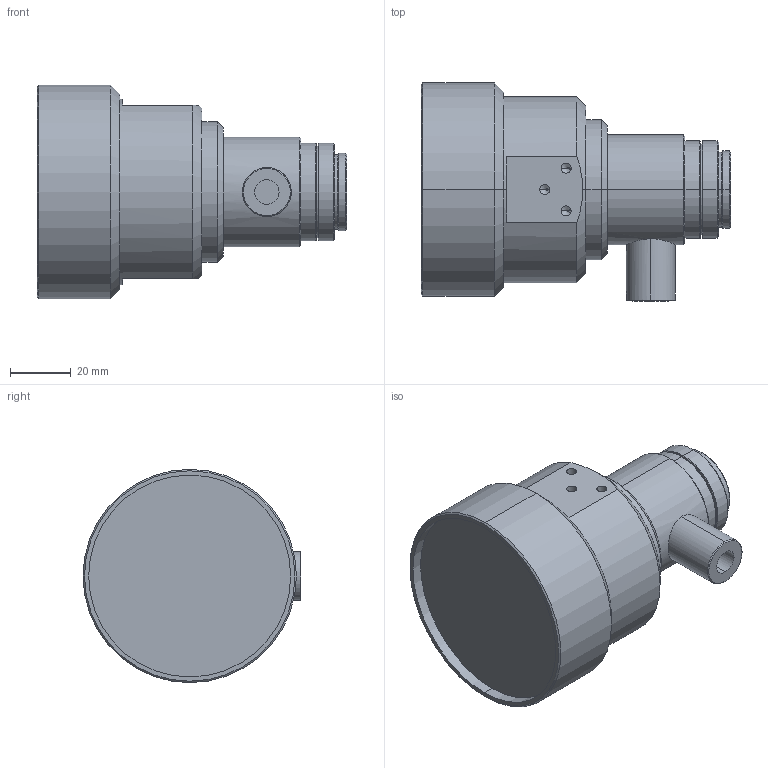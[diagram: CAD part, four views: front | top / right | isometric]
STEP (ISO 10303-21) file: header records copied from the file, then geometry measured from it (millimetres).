
FILE_DESCRIPTION (( 'STEP AP203' ), '1' );
FILE_NAME ('VS-TCM017-110CO.STEP', '2015-08-28T05:54:31', ( 'miura_vst' ), ( '' ), 'SwSTEP 2.0', 'SolidWorks 2015', '' );
FILE_SCHEMA (( 'CONFIG_CONTROL_DESIGN' ));
Length unit declared in the file: millimetre
Products named in the file (1): VS-TCM017-110CO
Bounding box: 101.5 x 71.5 x 70 mm (x, y, z)
Volume: 218320 mm3; surface area: 25749.3 mm2
Topology: 1 solids, 1 shells, 88 faces, 192 edges, 110 vertices
Faces by surface type: cylinder 36, cone 36, plane 16
Entity records: 2513 total; most frequent: CARTESIAN_POINT 507, DIRECTION 448, ORIENTED_EDGE 360, AXIS2_PLACEMENT_3D 185, EDGE_CURVE 180, VERTEX_POINT 110, EDGE_LOOP 104, CIRCLE 96
